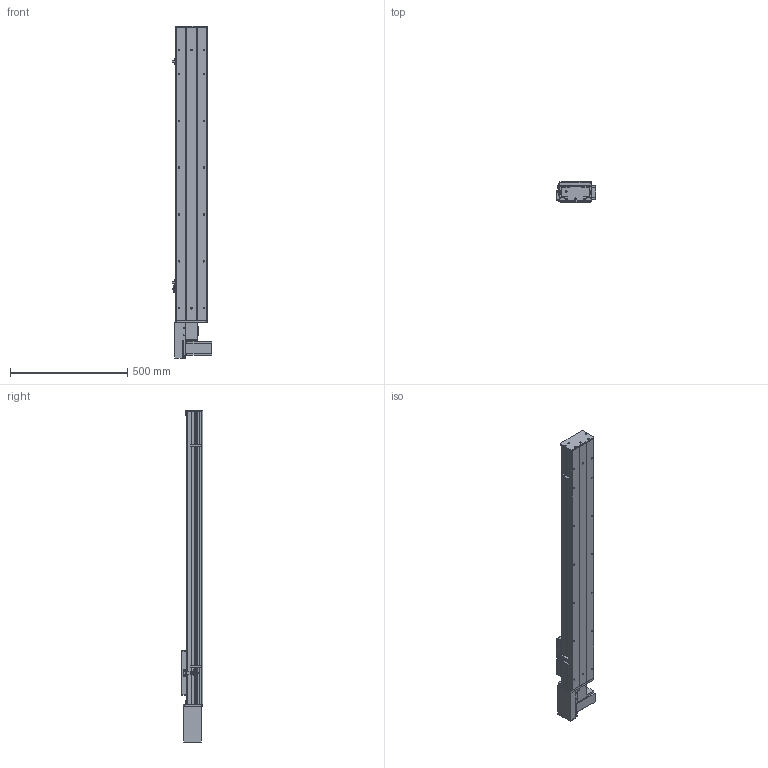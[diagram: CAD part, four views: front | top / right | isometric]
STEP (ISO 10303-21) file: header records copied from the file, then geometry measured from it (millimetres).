
FILE_DESCRIPTION (( 'STEP AP203' ), '1' );
FILE_NAME ('Y135CB-D90-S950-BR-P400W.STEP', '2020-02-18T02:28:33', ( '微软用户' ), ( '微软中国' ), 'SwSTEP 2.0', 'SolidWorks 2017', '' );
FILE_SCHEMA (( 'CONFIG_CONTROL_DESIGN' ));
Length unit declared in the file: millimetre
Products named in the file (18): Y135CB-D90-S950-BR-P400W; 5CB --掛极耜裔啣-; C-詩湍揤踡え-陔; Y135CB-耜裔; 135CB--詩湍-CE; 135CB---遴掛极.-; Y100-135俋离換覜ん--; 35CB---喘謫眊楊擘啣; Y135C-陔俋离換覜結え-; Y10B-耜蚾蟀諉啣----; 5C--俋欶; Y俋欶BR----; C-雄赽釱--; 0B-埴倛裔啣; 0B-萇儂楊擘啣; Y10B--々湍喘謫眊--666; 0B-源倛裔啣; san松下电机400不带刹车----
Assembly tree (21 placements, depth 2):
  Y135CB-D90-S950-BR-P400W
    Y135CB-耜裔
    135CB---遴掛极.-
    35CB---喘謫眊楊擘啣
    Y10B-耜蚾蟀諉啣----
    Y俋欶BR----
    0B-埴倛裔啣
    0B-源倛裔啣
    0B-萇儂楊擘啣
    san松下电机400不带刹车----
    5CB --掛极耜裔啣-  x2
    C-詩湍揤踡え-陔  x2
    135CB--詩湍-CE
    Y100-135俋离換覜ん--  x3
    Y135C-陔俋离換覜結え-
    5C--俋欶
    C-雄赽釱--
    Y10B--々湍喘謫眊--666
Bounding box: 167.5 x 91 x 1414.5 mm (x, y, z)
Volume: 4257399.8 mm3; surface area: 1665225.3 mm2
Topology: 21 solids, 21 shells, 945 faces, 2527 edges, 1674 vertices
Faces by surface type: cylinder 471, plane 458, cone 16
Entity records: 29341 total; most frequent: DIRECTION 4871, CARTESIAN_POINT 4812, ORIENTED_EDGE 4530, EDGE_CURVE 2265, AXIS2_PLACEMENT_3D 1773, VERTEX_POINT 1502, VECTOR 1325, LINE 1325
